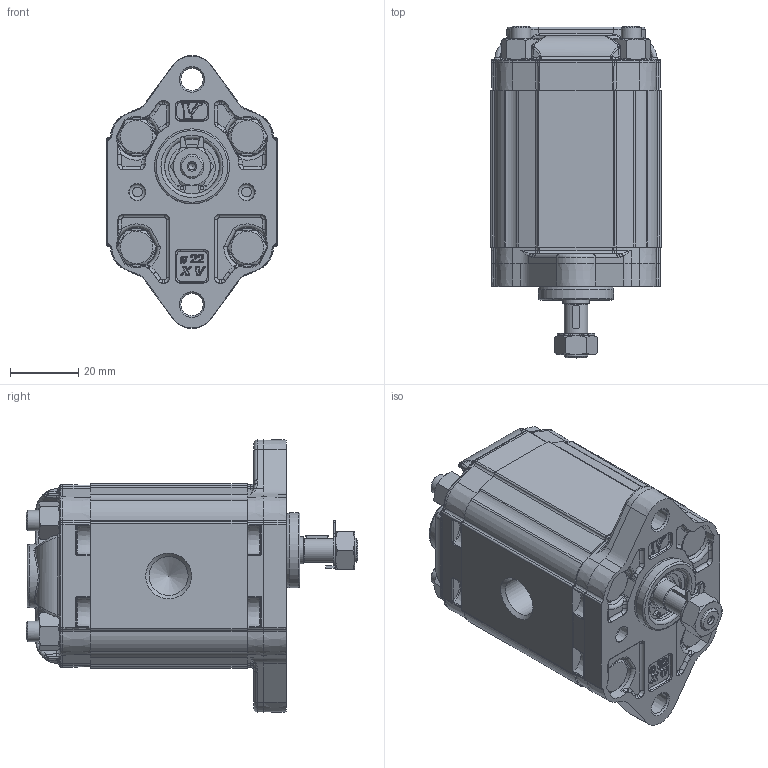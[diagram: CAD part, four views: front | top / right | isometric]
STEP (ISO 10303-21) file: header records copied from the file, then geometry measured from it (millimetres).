
FILE_DESCRIPTION(/* description */ ('Unknown'),/* implementation_level */ '2;1');
FILE_NAME(/* name */ 'X0P1301ABBA',/* time_stamp */ '2026-05-25T16:50:24+02:00',/* author */ ('Unknown'),/* organization */ ('Unknown'),/* preprocessor_version */ 'ST-DEVELOPER v16.7',/* originating_system */ 'Solid Edge',/* authorisation */ 'Unknown');
FILE_SCHEMA (('AUTOMOTIVE_DESIGN {1 0 10303 214 3 1 1}'));
Products named in the file (5): X0P1301ABBA; X0P01; 0A; X0BBH46; XP001-A
Assembly tree (4 placements, depth 2):
  X0P1301ABBA
    X0P01
    0A
    X0BBH46
    XP001-A
Bounding box: 50 x 97.3 x 79.95 mm (x, y, z)
Volume: 168195.4 mm3; surface area: 42924.1 mm2
Topology: 5 solids, 5 shells, 2541 faces, 6200 edges, 3664 vertices
Faces by surface type: cylinder 768, plane 645, bspline 547, cone 308, torus 195, sphere 78
Full cylindrical faces by diameter (mm): 1.053 x2, 2 x1, 6 x8, 6.01 x4, 6.5 x4, 6.518 x4, 6.545 x2, 7 x2, 7.25 x1, 7.5 x2, 7.92 x1, 8 x2, 9.318 x1, 10 x4, 10.445 x1, 11 x1, 11.445 x2, 13 x1, 14 x1, 16 x1, 16.2 x1, 16.8 x1, 22 x1
Entity records: 156655 total; most frequent: CARTESIAN_POINT 84051, ORIENTED_EDGE 11834, DIRECTION 10537, EDGE_CURVE 5917, AXIS2_PLACEMENT_3D 4294, VERTEX_POINT 3597, FACE_BOUND 2820, EDGE_LOOP 2817
